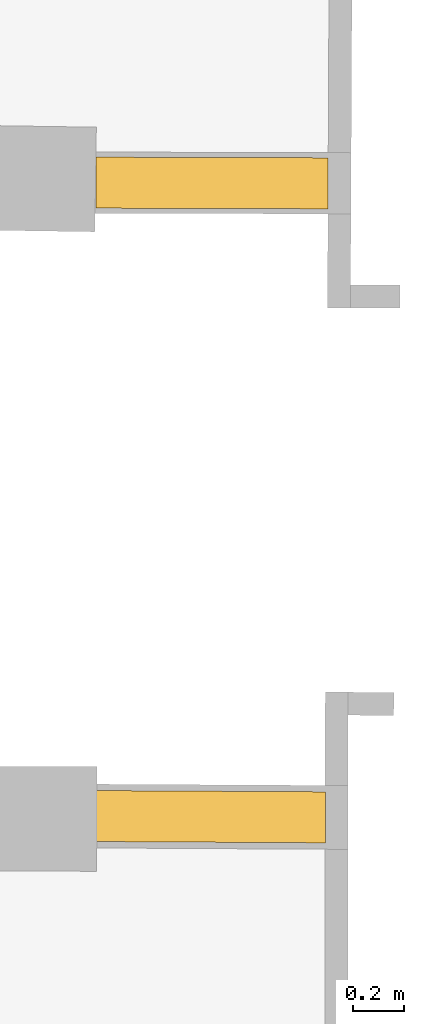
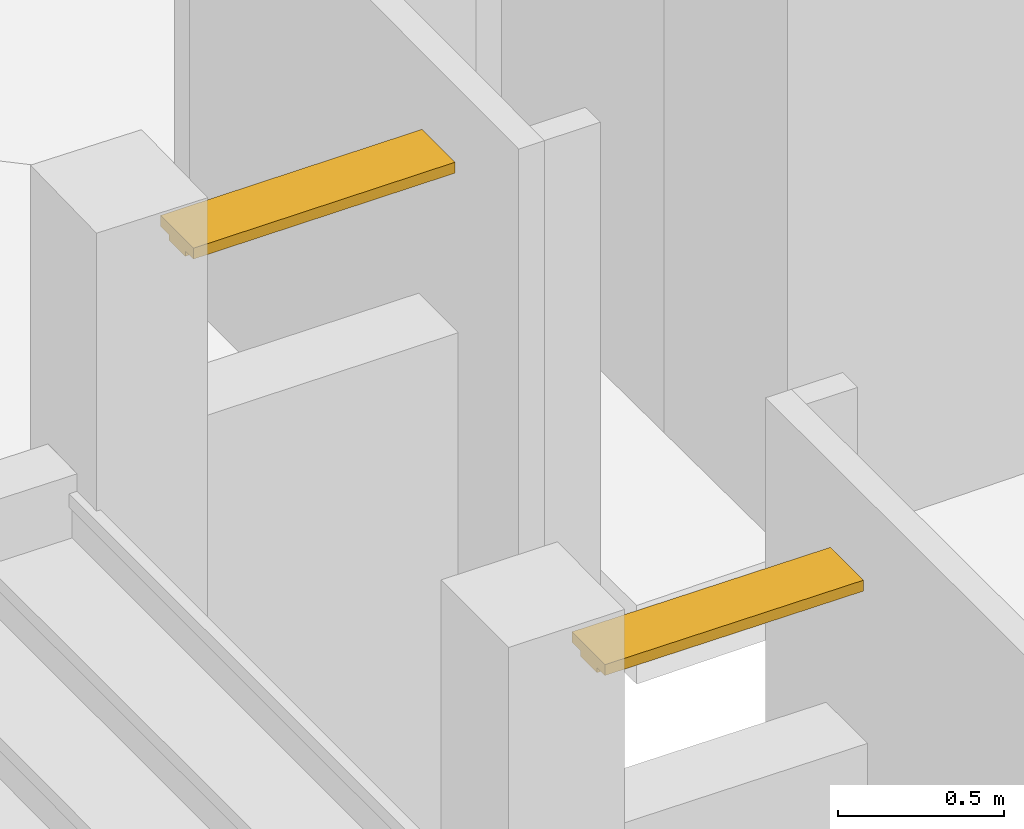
# One storey, part 121 of 133: 2 railings.
"""IFC2X3 building model written with IfcOpenShell, lengths in centimetres."""

from ifc_helpers import new_model, entity, si_unit, converted_unit, direction, frame, origin, origin_with_axes, place, context, subcontext, project, spatial, faceted_brep, shape, source, transform, mapped, material, material_list, type_object, element, save


model = new_model("IFC2X3")

# Units and contexts
model_context = context("Model", 3, precision=0.0001, world=origin(), true_north=direction((0.225632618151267, 0.974212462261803, 0.0)))
body_context = subcontext(model_context, "Body", "Model", "MODEL_VIEW")
ifc_project = project(units=[si_unit("LENGTHUNIT", "METRE", prefix="CENTI"), si_unit("AREAUNIT", "SQUARE_METRE", prefix="CENTI"), si_unit("VOLUMEUNIT", "CUBIC_METRE", prefix="CENTI"), converted_unit("PLANEANGLEUNIT", "DEGREE", entity("IfcRatioMeasure", 0.0174532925), si_unit("PLANEANGLEUNIT", "RADIAN"), dimensions=[0, 0, 0, 0, 0, 0, 0])], contexts=[model_context])

# Site, building, storey
site_placement = place(None, origin_with_axes())
site = spatial("IfcSite", under=ifc_project, at=site_placement, Name="Default Site", CompositionType="ELEMENT")
building_placement = place(site_placement, origin_with_axes())
building = spatial("IfcBuilding", under=site, at=building_placement, Name="Default Building", CompositionType="ELEMENT")
storey_placement = place(building_placement, frame((0.0, 0.0, -291.400371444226), z_axis=(0.0, 0.0, 1.0), x_axis=(1.0, 0.0, 0.0)))
storey = spatial("IfcBuildingStorey", under=building, at=storey_placement, Name="Rez-de-Jardin", CompositionType="ELEMENT", Elevation=-291.400371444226)

# Railings
ifc_material_1 = material(Name="Pierre du saint gottard")
ifc_material_2 = material(Name="Aluminium mat")
ifc_material_list = material_list([ifc_material_1, ifc_material_2])
railing_type = type_object("IfcRailingType", Name="Colonnes rectangulaire", PredefinedType="NOTDEFINED", material=ifc_material_list)
shared_shape_1 = source(origin_with_axes(), body_context, "Body", "Brep", [
    faceted_brep([(-1368.45712661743, -178.336250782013, -35.4000836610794), (-1368.48468780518, -183.336174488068, -35.4000836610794), (-1458.28113555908, -182.839918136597, -35.4000836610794), (-1458.25357437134, -177.839994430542, -35.4000836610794), (-1368.48468780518, -183.336174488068, -37.400084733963), (-1458.28113555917, -182.839918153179, -37.400084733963), (-1458.28113555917, -182.839918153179, -35.4000836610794), (-1368.54000091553, -193.336021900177, -37.400084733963), (-1458.33644866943, -192.839765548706, -37.400084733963), (-1458.28113555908, -182.839918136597, -37.400084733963), (-1368.54000091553, -193.336021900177, -35.4000836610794), (-1458.33644866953, -192.839765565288, -35.4000836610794), (-1458.33644866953, -192.839765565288, -37.400084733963), (-1368.56756210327, -198.335945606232, -35.4000836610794), (-1458.36400985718, -197.839689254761, -35.4000836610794), (-1458.33644866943, -192.839765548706, -35.4000836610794), (-1368.56756210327, -198.335945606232, -31.4003705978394), (-1458.36400985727, -197.839689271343, -31.4003705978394), (-1458.36400985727, -197.839689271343, -35.4000836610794), (-1368.45712661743, -178.336250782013, -31.4003705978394), (-1458.25357437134, -177.839994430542, -31.4003705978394), (-1458.36400985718, -197.839689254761, -31.4003705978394), (-1458.25357437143, -177.839994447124, -35.4000836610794), (-1458.25357437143, -177.839994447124, -31.4003705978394), (-1458.28120623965, -182.839917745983, -35.4000836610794), (-1458.28120623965, -182.839917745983, -37.400084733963), (-1458.3364699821, -192.839765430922, -37.400084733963), (-1458.3364699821, -192.839765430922, -35.4000836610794), (-1458.36410185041, -197.839688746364, -35.4000836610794), (-1458.36410185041, -197.839688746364, -31.4003705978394), (-1368.56765409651, -198.335945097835, -31.4003705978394), (-1368.56765409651, -198.335945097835, -35.4000836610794), (-1368.54002222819, -193.336021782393, -35.4000836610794), (-1368.54002222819, -193.336021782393, -37.400084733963), (-1368.48475848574, -183.336174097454, -37.400084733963), (-1368.48475848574, -183.336174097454, -35.4000836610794)], [[[0, 1, 2, 3]], [[1, 4, 5, 6]], [[4, 7, 8, 9]], [[7, 10, 11, 12]], [[10, 13, 14, 15]], [[13, 16, 17, 18]], [[16, 19, 20, 21]], [[19, 0, 22, 23]], [[3, 24, 25, 26, 27, 28, 29, 20]], [[19, 30, 31, 32, 33, 34, 35, 0]]]),
])
shared_shape_2 = source(origin_with_axes(), body_context, "Body", "Brep", [
    faceted_brep([(-1368.48468780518, -183.336174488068, -85.4006588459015), (-1368.48468780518, -183.336174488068, -87.4006569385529), (-1458.28113555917, -182.839918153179, -87.4006569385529), (-1458.28113555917, -182.839918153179, -85.4006588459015), (-1368.45712661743, -178.336250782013, -87.4006569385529), (-1458.25357437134, -177.839994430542, -87.4006569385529), (-1458.28113555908, -182.839918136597, -87.4006569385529), (-1368.45712661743, -178.336250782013, -91.4003729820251), (-1458.25357437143, -177.839994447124, -91.4003729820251), (-1458.25357437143, -177.839994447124, -87.4006569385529), (-1368.56756210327, -198.335945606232, -91.4003729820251), (-1458.36400985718, -197.839689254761, -91.4003729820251), (-1458.25357437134, -177.839994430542, -91.4003729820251), (-1368.56756210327, -198.335945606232, -87.4006569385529), (-1458.36400985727, -197.839689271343, -87.4006569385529), (-1458.36400985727, -197.839689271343, -91.4003729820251), (-1368.54000091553, -193.336021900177, -87.4006569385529), (-1458.33644866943, -192.839765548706, -87.4006569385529), (-1458.36400985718, -197.839689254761, -87.4006569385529), (-1368.54000091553, -193.336021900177, -85.4006588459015), (-1458.33644866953, -192.839765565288, -85.4006588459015), (-1458.33644866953, -192.839765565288, -87.4006569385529), (-1458.28113555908, -182.839918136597, -85.4006588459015), (-1458.33644866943, -192.839765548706, -85.4006588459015), (-1458.25350369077, -177.839994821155, -87.4006569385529), (-1458.25350369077, -177.839994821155, -91.4003729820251), (-1458.36403116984, -197.839689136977, -91.4003729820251), (-1458.36403116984, -197.839689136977, -87.4006569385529), (-1458.33639930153, -192.839765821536, -87.4006569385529), (-1458.33639930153, -192.839765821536, -85.4006588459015), (-1368.56763278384, -198.335945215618, -87.4006569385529), (-1368.56763278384, -198.335945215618, -91.4003729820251), (-1368.45710530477, -178.336250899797, -91.4003729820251), (-1368.45710530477, -178.336250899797, -87.4006569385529), (-1368.48473717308, -183.336174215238, -87.4006569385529), (-1368.48473717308, -183.336174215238, -85.4006588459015)], [[[0, 1, 2, 3]], [[1, 4, 5, 6]], [[4, 7, 8, 9]], [[7, 10, 11, 12]], [[10, 13, 14, 15]], [[13, 16, 17, 18]], [[16, 19, 20, 21]], [[19, 0, 22, 23]], [[22, 6, 24, 25, 26, 27, 28, 29]], [[19, 16, 30, 31, 32, 33, 34, 35]]]),
])
shared_shape_3 = source(origin_with_axes(), body_context, "Body", "Brep", [
    faceted_brep([(11.9649283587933, 0.0712678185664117, 1.01694911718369), (11.5499995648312, 0.0500000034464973, 2.03389823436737), (11.9649283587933, 0.0712678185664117, 2.03389823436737), (11.5499995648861, 0.0500000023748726, 2.03389823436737), (11.9649283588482, 0.071267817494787, 1.01694911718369), (11.5499995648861, 0.0500000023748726, 1.01694911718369), (11.9499996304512, -0.44999998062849, 1.01694911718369), (11.5499995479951, 0.0499999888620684, 2.03389823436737), (11.5499995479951, 0.0499999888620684, 1.01694911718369), (11.9499996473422, -0.449999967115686, 1.01694911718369), (11.9499996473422, -0.449999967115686, 2.03389823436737), (12.4499999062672, -0.0500000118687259, 2.03389823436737), (11.9499996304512, -0.44999998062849, 2.03389823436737), (12.4499998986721, -0.0500000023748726, 2.03389823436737), (11.9499996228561, -0.449999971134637, 1.01694911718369), (12.4499998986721, -0.0500000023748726, 1.01694911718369), (11.9649283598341, 0.0712678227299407, 2.03389823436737), (12.4499998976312, -0.0500000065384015, 1.01694911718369)], [[[0, 1, 2]], [[3, 4, 5]], [[6, 7, 8]], [[3, 9, 10]], [[6, 11, 12]], [[13, 14, 15]], [[15, 16, 13]], [[2, 17, 0]], [[12, 2, 3]], [[2, 12, 13]], [[0, 6, 5]], [[6, 0, 15]]]),
])
shared_shape_4 = source(origin_with_axes(), body_context, "Body", "Brep", [
    faceted_brep([(-12.0350711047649, 0.0712678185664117, 1.01694911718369), (-12.449999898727, 0.0500000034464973, 2.03389823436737), (-12.0350711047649, 0.0712678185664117, 2.03389823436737), (-12.4499998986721, 0.0500000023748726, 2.03389823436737), (-12.03507110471, 0.071267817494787, 1.01694911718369), (-12.4499998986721, 0.0500000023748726, 1.01694911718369), (-12.049999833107, -0.44999998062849, 1.01694911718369), (-12.4499999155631, 0.0499999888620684, 2.03389823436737), (-12.4499999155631, 0.0499999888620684, 1.01694911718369), (-12.049999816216, -0.449999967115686, 1.01694911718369), (-12.049999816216, -0.449999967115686, 2.03389823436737), (-11.549999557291, -0.0500000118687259, 2.03389823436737), (-12.049999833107, -0.44999998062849, 2.03389823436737), (-11.5499995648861, -0.0500000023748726, 2.03389823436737), (-12.0499998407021, -0.449999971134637, 1.01694911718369), (-11.5499995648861, -0.0500000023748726, 1.01694911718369), (-12.0350711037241, 0.0712678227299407, 2.03389823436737), (-11.549999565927, -0.0500000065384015, 1.01694911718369)], [[[0, 1, 2]], [[3, 4, 5]], [[6, 7, 8]], [[3, 9, 10]], [[6, 11, 12]], [[13, 14, 15]], [[15, 16, 13]], [[2, 17, 0]], [[12, 2, 3]], [[2, 12, 13]], [[0, 6, 5]], [[6, 0, 15]]]),
])
shared_shape_5 = source(origin_with_axes(), body_context, "Body", "Brep", [
    faceted_brep([(-2.99999993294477, -5.00000007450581, 0.0), (2.99999993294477, 5.00000007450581, 0.0), (2.99999993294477, -5.00000007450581, 0.0), (-2.99999993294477, 5.00000007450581, 0.0), (-2.99999993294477, 5.00000007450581, 47.9999989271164), (2.99999993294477, 5.00000007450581, 47.9999989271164), (2.99999993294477, -5.00000007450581, 47.9999989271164), (-2.99999993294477, -5.00000007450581, 47.9999989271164)], [[[0, 1, 2]], [[1, 0, 3]], [[4, 1, 3]], [[1, 4, 5]], [[4, 6, 5]], [[6, 4, 7]], [[6, 0, 2]], [[0, 6, 7]], [[6, 1, 5]], [[1, 6, 2]], [[0, 4, 3]], [[4, 0, 7]]]),
])
railing_1_placement = place(storey_placement, frame((-1458.30883804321, -187.839836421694, 200.0), z_axis=(0.0, 0.0, 1.0), x_axis=(1.0, 0.0, 0.0)))
element("IfcRailing", 1, at=railing_1_placement, inside=storey, type_object=railing_type, material=ifc_material_list, Name="Garde-corps 326483", PredefinedType="NOTDEFINED", shapes=[
    shape(body_context, "Body", "MappedRepresentation", [mapped(shared_shape_1, transform((1458.30883804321, 187.839836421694, 91.4003714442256), x_axis=(1.0, 0.0, 0.0), y_axis=(0.0, 1.0, 0.0), z_axis=(0.0, 0.0, 1.0), scale=1.0, scale2=1.0, scale3=1.0, uniform=False))]),
    shape(body_context, "Body", "MappedRepresentation", [mapped(shared_shape_2, transform((1458.30883804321, 187.839836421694, 91.4003714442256), x_axis=(1.0, 0.0, 0.0), y_axis=(0.0, 1.0, 0.0), z_axis=(0.0, 0.0, 1.0), scale=1.0, scale2=1.0, scale3=1.0, uniform=False))]),
    shape(body_context, "Body", "MappedRepresentation", [mapped(shared_shape_3, transform((4.59289527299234e-05, -5.42095783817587e-06, -1.53779956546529e-06), x_axis=(0.999984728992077, -0.00552646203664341, 0.0), y_axis=(0.00552646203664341, 0.999984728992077, 0.0), z_axis=(0.0, 0.0, 1.0), scale=1.00000001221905, scale2=1.00000001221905, scale3=1.0, uniform=False))]),
    shape(body_context, "Body", "MappedRepresentation", [mapped(shared_shape_4, transform((89.796493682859, -0.496261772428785, -1.53779956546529e-06), x_axis=(0.999984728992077, -0.00552646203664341, 0.0), y_axis=(0.00552646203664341, 0.999984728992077, 0.0), z_axis=(0.0, 0.0, 1.0), scale=1.00000001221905, scale2=1.00000001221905, scale3=1.0, uniform=False))]),
    shape(body_context, "Body", "MappedRepresentation", [mapped(shared_shape_5, transform((9.89880386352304, -0.0547105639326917, 5.99999870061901), x_axis=(0.999984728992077, -0.00552646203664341, 0.0), y_axis=(0.00552646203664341, 0.999984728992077, 0.0), z_axis=(0.0, 0.0, 1.0), scale=1.00000001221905, scale2=1.00000001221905, scale3=1.0, uniform=False))]),
    shape(body_context, "Body", "MappedRepresentation", [mapped(shared_shape_5, transform((23.8985520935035, -0.132077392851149, 5.99999870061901), x_axis=(0.999984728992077, -0.00552646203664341, 0.0), y_axis=(0.00552646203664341, 0.999984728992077, 0.0), z_axis=(0.0, 0.0, 1.0), scale=1.00000001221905, scale2=1.00000001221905, scale3=1.0, uniform=False))]),
    shape(body_context, "Body", "MappedRepresentation", [mapped(shared_shape_5, transform((37.898300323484, -0.209444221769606, 5.99999870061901), x_axis=(0.999984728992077, -0.00552646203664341, 0.0), y_axis=(0.00552646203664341, 0.999984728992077, 0.0), z_axis=(0.0, 0.0, 1.0), scale=1.00000001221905, scale2=1.00000001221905, scale3=1.0, uniform=False))]),
    shape(body_context, "Body", "MappedRepresentation", [mapped(shared_shape_5, transform((51.8981439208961, -0.286822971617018, 5.99999870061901), x_axis=(0.999984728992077, -0.00552646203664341, 0.0), y_axis=(0.00552646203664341, 0.999984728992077, 0.0), z_axis=(0.0, 0.0, 1.0), scale=1.00000001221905, scale2=1.00000001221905, scale3=1.0, uniform=False))]),
    shape(body_context, "Body", "MappedRepresentation", [mapped(shared_shape_5, transform((65.8978921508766, -0.364189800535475, 5.99999870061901), x_axis=(0.999984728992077, -0.00552646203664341, 0.0), y_axis=(0.00552646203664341, 0.999984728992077, 0.0), z_axis=(0.0, 0.0, 1.0), scale=1.00000001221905, scale2=1.00000001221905, scale3=1.0, uniform=False))]),
    shape(body_context, "Body", "MappedRepresentation", [mapped(shared_shape_5, transform((79.8977357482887, -0.441556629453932, 5.99999870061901), x_axis=(0.999984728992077, -0.00552646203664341, 0.0), y_axis=(0.00552646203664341, 0.999984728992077, 0.0), z_axis=(0.0, 0.0, 1.0), scale=1.00000001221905, scale2=1.00000001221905, scale3=1.0, uniform=False))]),
])
shared_shape_6 = source(origin_with_axes(), body_context, "Body", "Brep", [
    faceted_brep([(-1367.41361618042, 70.1311826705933, -32.4000835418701), (-1367.42763519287, 65.1312053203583, -32.4000835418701), (-1458.44507217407, 65.3865218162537, -32.4000835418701), (-1458.43105316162, 70.3864991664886, -32.4000835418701), (-1367.42763519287, 65.1312053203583, -34.4000846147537), (-1458.44507217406, 65.3865218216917, -34.4000846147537), (-1458.44507217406, 65.3865218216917, -32.4000835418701), (-1367.45567321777, 55.1312386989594, -34.4000846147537), (-1458.47311019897, 55.3865551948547, -34.4000846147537), (-1458.44507217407, 65.3865218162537, -34.4000846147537), (-1367.45567321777, 55.1312386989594, -32.4000835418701), (-1458.47311019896, 55.3865552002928, -32.4000835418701), (-1458.47311019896, 55.3865552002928, -34.4000846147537), (-1367.46969223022, 50.1312613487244, -32.4000835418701), (-1458.48712921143, 50.3865778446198, -32.4000835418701), (-1458.47311019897, 55.3865551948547, -32.4000835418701), (-1367.46969223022, 50.1312613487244, -28.4003704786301), (-1458.48712921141, 50.3865778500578, -28.4003704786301), (-1458.48712921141, 50.3865778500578, -32.4000835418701), (-1367.41361618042, 70.1311826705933, -28.4003704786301), (-1458.43105316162, 70.3864991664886, -28.4003704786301), (-1458.48712921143, 50.3865778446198, -28.4003704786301), (-1458.43105316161, 70.3864991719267, -32.4000835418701), (-1458.43105316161, 70.3864991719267, -28.4003704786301), (-1458.44507878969, 65.3865218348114, -32.4000835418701), (-1458.44507878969, 65.3865218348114, -34.4000846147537), (-1458.47313007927, 55.3865552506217, -34.4000846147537), (-1458.47313007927, 55.3865552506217, -32.4000835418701), (-1458.48715570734, 50.3865779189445, -32.4000835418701), (-1458.48715570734, 50.3865779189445, -28.4003704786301), (-1367.46971872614, 50.1312614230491, -28.4003704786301), (-1367.46971872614, 50.1312614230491, -32.4000835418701), (-1367.45569309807, 55.1312387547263, -32.4000835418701), (-1367.45569309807, 55.1312387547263, -34.4000846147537), (-1367.42764180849, 65.131205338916, -34.4000846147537), (-1367.42764180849, 65.131205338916, -32.4000835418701)], [[[0, 1, 2, 3]], [[1, 4, 5, 6]], [[4, 7, 8, 9]], [[7, 10, 11, 12]], [[10, 13, 14, 15]], [[13, 16, 17, 18]], [[16, 19, 20, 21]], [[19, 0, 22, 23]], [[3, 24, 25, 26, 27, 28, 29, 20]], [[19, 30, 31, 32, 33, 34, 35, 0]]]),
])
shared_shape_7 = source(origin_with_axes(), body_context, "Body", "Brep", [
    faceted_brep([(-1367.42763519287, 65.1312053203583, -82.40065574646), (-1367.42763519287, 65.1312053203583, -84.4006538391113), (-1458.44507217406, 65.3865218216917, -84.4006538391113), (-1458.44507217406, 65.3865218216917, -82.40065574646), (-1367.41361618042, 70.1311826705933, -84.4006538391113), (-1458.43105316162, 70.3864991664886, -84.4006538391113), (-1458.44507217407, 65.3865218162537, -84.4006538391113), (-1367.41361618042, 70.1311826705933, -88.4003698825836), (-1458.43105316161, 70.3864991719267, -88.4003698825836), (-1458.43105316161, 70.3864991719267, -84.4006538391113), (-1367.46969223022, 50.1312613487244, -88.4003698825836), (-1458.48712921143, 50.3865778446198, -88.4003698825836), (-1458.43105316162, 70.3864991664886, -88.4003698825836), (-1367.46969223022, 50.1312613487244, -84.4006538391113), (-1458.48712921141, 50.3865778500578, -84.4006538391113), (-1458.48712921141, 50.3865778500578, -88.4003698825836), (-1367.45567321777, 55.1312386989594, -84.4006538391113), (-1458.47311019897, 55.3865551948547, -84.4006538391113), (-1458.48712921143, 50.3865778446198, -84.4006538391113), (-1367.45567321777, 55.1312386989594, -82.40065574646), (-1458.47311019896, 55.3865552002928, -82.40065574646), (-1458.47311019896, 55.3865552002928, -84.4006538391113), (-1458.44507217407, 65.3865218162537, -82.40065574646), (-1458.47311019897, 55.3865551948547, -82.40065574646), (-1458.431046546, 70.3864991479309, -84.4006538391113), (-1458.431046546, 70.3864991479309, -88.4003698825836), (-1458.48714909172, 50.3865779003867, -88.4003698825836), (-1458.48714909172, 50.3865779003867, -84.4006538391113), (-1458.47312346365, 55.386555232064, -84.4006538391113), (-1458.47312346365, 55.386555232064, -82.40065574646), (-1367.46969884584, 50.1312613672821, -84.4006538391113), (-1367.46969884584, 50.1312613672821, -88.4003698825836), (-1367.41359630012, 70.1311826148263, -88.4003698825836), (-1367.41359630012, 70.1311826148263, -84.4006538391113), (-1367.42762192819, 65.131205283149, -84.4006538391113), (-1367.42762192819, 65.131205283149, -82.40065574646)], [[[0, 1, 2, 3]], [[1, 4, 5, 6]], [[4, 7, 8, 9]], [[7, 10, 11, 12]], [[10, 13, 14, 15]], [[13, 16, 17, 18]], [[16, 19, 20, 21]], [[19, 0, 22, 23]], [[22, 6, 24, 25, 26, 27, 28, 29]], [[19, 16, 30, 31, 32, 33, 34, 35]]]),
])
railing_2_placement = place(storey_placement, frame((-1458.45906341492, 60.3865411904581, 203.0), z_axis=(0.0, 0.0, 1.0), x_axis=(1.0, 0.0, 0.0)))
element("IfcRailing", 2, at=railing_2_placement, inside=storey, type_object=railing_type, material=ifc_material_list, Name="Garde-corps 322635", PredefinedType="NOTDEFINED", shapes=[
    shape(body_context, "Body", "MappedRepresentation", [mapped(shared_shape_6, transform((1458.45906341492, -60.3865411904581, 88.4003714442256), x_axis=(1.0, 0.0, 0.0), y_axis=(0.0, 1.0, 0.0), z_axis=(0.0, 0.0, 1.0), scale=1.0, scale2=1.0, scale3=1.0, uniform=False))]),
    shape(body_context, "Body", "MappedRepresentation", [mapped(shared_shape_7, transform((1458.45906341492, -60.3865411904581, 88.4003714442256), x_axis=(1.0, 0.0, 0.0), y_axis=(0.0, 1.0, 0.0), z_axis=(0.0, 0.0, 1.0), scale=1.0, scale2=1.0, scale3=1.0, uniform=False))]),
    shape(body_context, "Body", "MappedRepresentation", [mapped(shared_shape_3, transform((-2.77716074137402e-05, -2.6849039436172e-06, 1.56164199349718e-06), x_axis=(0.999996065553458, -0.00280515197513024, 0.0), y_axis=(0.00280515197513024, 0.999996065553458, 0.0), z_axis=(0.0, 0.0, 1.0), scale=1.00000000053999, scale2=1.00000000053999, scale3=1.0, uniform=False))]),
    shape(body_context, "Body", "MappedRepresentation", [mapped(shared_shape_4, transform((91.0174092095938, -0.255319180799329, 1.56164199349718e-06), x_axis=(0.999996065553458, -0.00280515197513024, 0.0), y_axis=(0.00280515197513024, 0.999996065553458, 0.0), z_axis=(0.0, 0.0, 1.0), scale=1.00000000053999, scale2=1.00000000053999, scale3=1.0, uniform=False))]),
    shape(body_context, "Body", "MappedRepresentation", [mapped(shared_shape_5, transform((10.508795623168, -0.0294771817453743, 6.00000180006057), x_axis=(0.999996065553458, -0.00280515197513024, 0.0), y_axis=(0.00280515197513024, 0.999996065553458, 0.0), z_axis=(0.0, 0.0, 1.0), scale=1.00000000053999, scale2=1.00000000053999, scale3=1.0, uniform=False))]),
    shape(body_context, "Body", "MappedRepresentation", [mapped(shared_shape_5, transform((24.5087345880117, -0.0687506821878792, 6.00000180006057), x_axis=(0.999996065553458, -0.00280515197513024, 0.0), y_axis=(0.00280515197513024, 0.999996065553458, 0.0), z_axis=(0.0, 0.0, 1.0), scale=1.00000000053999, scale2=1.00000000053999, scale3=1.0, uniform=False))]),
    shape(body_context, "Body", "MappedRepresentation", [mapped(shared_shape_5, transform((38.5086735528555, -0.108024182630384, 6.00000180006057), x_axis=(0.999996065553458, -0.00280515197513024, 0.0), y_axis=(0.00280515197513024, 0.999996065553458, 0.0), z_axis=(0.0, 0.0, 1.0), scale=1.00000000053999, scale2=1.00000000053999, scale3=1.0, uniform=False))]),
    shape(body_context, "Body", "MappedRepresentation", [mapped(shared_shape_5, transform((52.5087078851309, -0.147297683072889, 6.00000180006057), x_axis=(0.999996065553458, -0.00280515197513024, 0.0), y_axis=(0.00280515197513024, 0.999996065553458, 0.0), z_axis=(0.0, 0.0, 1.0), scale=1.00000000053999, scale2=1.00000000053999, scale3=1.0, uniform=False))]),
    shape(body_context, "Body", "MappedRepresentation", [mapped(shared_shape_5, transform((66.5086468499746, -0.186565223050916, 6.00000180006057), x_axis=(0.999996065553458, -0.00280515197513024, 0.0), y_axis=(0.00280515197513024, 0.999996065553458, 0.0), z_axis=(0.0, 0.0, 1.0), scale=1.00000000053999, scale2=1.00000000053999, scale3=1.0, uniform=False))]),
    shape(body_context, "Body", "MappedRepresentation", [mapped(shared_shape_5, transform((80.5085858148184, -0.225838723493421, 6.00000180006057), x_axis=(0.999996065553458, -0.00280515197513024, 0.0), y_axis=(0.00280515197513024, 0.999996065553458, 0.0), z_axis=(0.0, 0.0, 1.0), scale=1.00000000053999, scale2=1.00000000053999, scale3=1.0, uniform=False))]),
])

save(model, "model.ifc")
